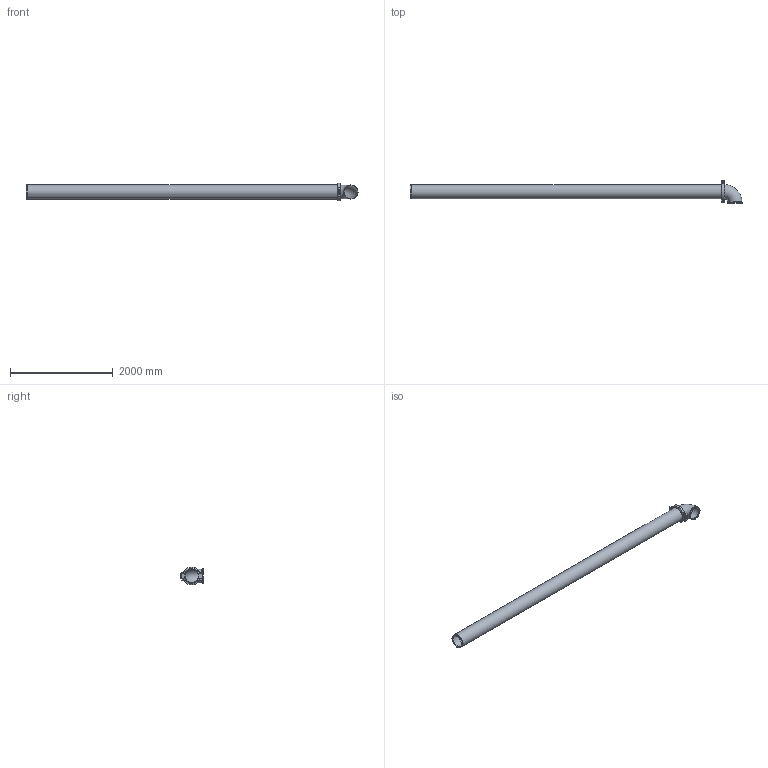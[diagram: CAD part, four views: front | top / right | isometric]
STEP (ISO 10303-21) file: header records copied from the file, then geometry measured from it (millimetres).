
FILE_DESCRIPTION(/* description */ ('VIC LONG RUN FITTING No R20 (OGS)','CAx-IF Rec.Pracs.---Representation and Presentation of Product Manufacturing Information (PMI)---4.0---2014-10-13'),/* implementation_level */ '2;1');
FILE_NAME(/* name */ 'C:\Users\Vjadhav\AppData\Roaming\Autodesk\ApplicationPlugins\Back Up\Victaulic_IPS_Long Run Fittings_No R20 (OGS)\Victaulic_IPS_Long Run Fittings_No R20 (OGS)_10 (250).stp',/* time_stamp */ '2020-10-06T19:46:07+05:00',/* author */ ('Vjadhav'),/* organization */ ('Victaulic'),/* preprocessor_version */ 'ST-DEVELOPER v17.2',/* originating_system */ 'Autodesk Inventor 2019',/* authorisation */ '');
FILE_SCHEMA (('AP242_MANAGED_MODEL_BASED_3D_ENGINEERING_MIM_LF { 1 0 10303 442 1 1 4 }'));
Length unit declared in the file: inch
Products named in the file (4): R20-10.0; 010-10.0; Pipe_R10-10.0; 077-10.0
Assembly tree (3 placements, depth 2):
  R20-10.0
    010-10.0
    Pipe_R10-10.0
    077-10.0
Bounding box: 6464.43 x 446.15 x 344.9 mm (x, y, z)
Volume: 52496157.9 mm3; surface area: 11041189.4 mm2
Topology: 3 solids, 5 shells, 87 faces, 205 edges, 144 vertices
Faces by surface type: plane 48, cylinder 31, cone 4, torus 2, bspline 2
Full cylindrical faces by diameter (mm): 25.4 x4, 27.432 x2, 254.508 x3, 264.16 x1, 268.275 x4, 273.05 x7
Entity records: 3271 total; most frequent: CARTESIAN_POINT 927, DIRECTION 457, ORIENTED_EDGE 410, EDGE_CURVE 205, AXIS2_PLACEMENT_3D 184, VERTEX_POINT 144, EDGE_LOOP 113, CIRCLE 92
